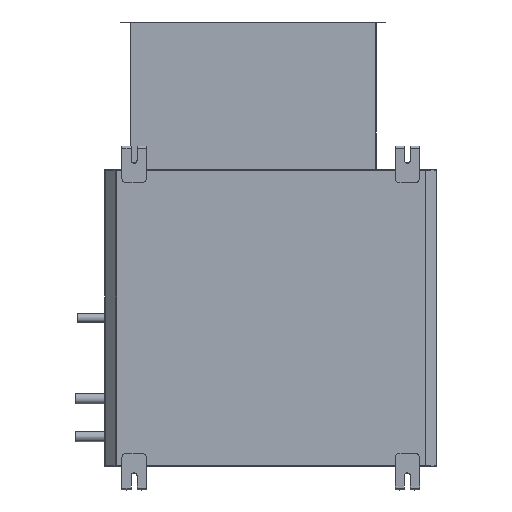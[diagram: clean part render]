
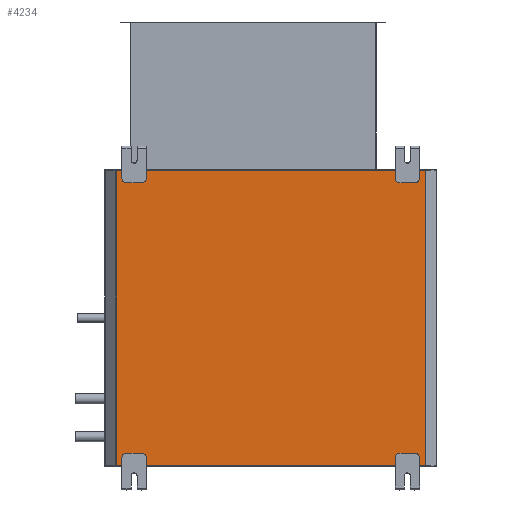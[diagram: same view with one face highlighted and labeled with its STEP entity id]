
A CAD part, left-side view. The second image highlights one B-rep face of the part: STEP entity #4234.
In plain terms, the highlighted planar face has unit normal (-1, 0, 0).
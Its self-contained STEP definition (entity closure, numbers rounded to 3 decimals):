
#176=PLANE('',#4621);
#383=FACE_OUTER_BOUND('',#628,.T.);
#628=EDGE_LOOP('',(#3877,#3878,#3879,#3880,#3881,#3882,#3883,#3884,#3885,
#3886,#3887,#3888,#3889,#3890,#3891,#3892,#3893,#3894,#3895,#3896,#3897,
#3898,#3899,#3900,#3901,#3902,#3903,#3904));
#715=LINE('',#6052,#1169);
#724=LINE('',#6072,#1178);
#728=LINE('',#6084,#1182);
#794=LINE('',#6267,#1248);
#802=LINE('',#6289,#1256);
#806=LINE('',#6298,#1260);
#875=LINE('',#6487,#1329);
#883=LINE('',#6509,#1337);
#887=LINE('',#6518,#1341);
#957=LINE('',#6708,#1411);
#966=LINE('',#6730,#1420);
#970=LINE('',#6742,#1424);
#1071=LINE('',#7008,#1525);
#1072=LINE('',#7009,#1526);
#1073=LINE('',#7011,#1527);
#1079=LINE('',#7022,#1533);
#1080=LINE('',#7023,#1534);
#1081=LINE('',#7024,#1535);
#1082=LINE('',#7026,#1536);
#1083=LINE('',#7027,#1537);
#1169=VECTOR('',#4855,10.);
#1178=VECTOR('',#4874,10.);
#1182=VECTOR('',#4890,10.);
#1248=VECTOR('',#5058,10.);
#1256=VECTOR('',#5082,10.);
#1260=VECTOR('',#5094,10.);
#1329=VECTOR('',#5269,10.);
#1337=VECTOR('',#5293,10.);
#1341=VECTOR('',#5305,10.);
#1411=VECTOR('',#5483,10.);
#1420=VECTOR('',#5504,10.);
#1424=VECTOR('',#5520,10.);
#1525=VECTOR('',#5779,10.);
#1526=VECTOR('',#5780,10.);
#1527=VECTOR('',#5781,10.);
#1533=VECTOR('',#5789,10.);
#1534=VECTOR('',#5790,10.);
#1535=VECTOR('',#5791,10.);
#1536=VECTOR('',#5792,10.);
#1537=VECTOR('',#5793,10.);
#1588=CIRCLE('',#4344,10.);
#1589=CIRCLE('',#4346,10.);
#1617=CIRCLE('',#4405,10.);
#1618=CIRCLE('',#4408,10.);
#1647=CIRCLE('',#4470,10.);
#1648=CIRCLE('',#4473,10.);
#1678=CIRCLE('',#4538,10.);
#1679=CIRCLE('',#4540,10.);
#1788=VERTEX_POINT('',#6049);
#1789=VERTEX_POINT('',#6051);
#1794=VERTEX_POINT('',#6069);
#1795=VERTEX_POINT('',#6071);
#1796=VERTEX_POINT('',#6076);
#1797=VERTEX_POINT('',#6080);
#1849=VERTEX_POINT('',#6226);
#1850=VERTEX_POINT('',#6228);
#1863=VERTEX_POINT('',#6266);
#1868=VERTEX_POINT('',#6284);
#1869=VERTEX_POINT('',#6288);
#1870=VERTEX_POINT('',#6292);
#1923=VERTEX_POINT('',#6446);
#1924=VERTEX_POINT('',#6448);
#1937=VERTEX_POINT('',#6486);
#1942=VERTEX_POINT('',#6504);
#1943=VERTEX_POINT('',#6508);
#1944=VERTEX_POINT('',#6512);
#2009=VERTEX_POINT('',#6705);
#2010=VERTEX_POINT('',#6707);
#2016=VERTEX_POINT('',#6727);
#2017=VERTEX_POINT('',#6729);
#2018=VERTEX_POINT('',#6734);
#2019=VERTEX_POINT('',#6738);
#2105=VERTEX_POINT('',#7006);
#2106=VERTEX_POINT('',#7010);
#2110=VERTEX_POINT('',#7021);
#2111=VERTEX_POINT('',#7025);
#2228=EDGE_CURVE('',#1789,#1788,#715,.T.);
#2239=EDGE_CURVE('',#1795,#1794,#724,.T.);
#2243=EDGE_CURVE('',#1796,#1788,#1588,.F.);
#2244=EDGE_CURVE('',#1795,#1797,#1589,.F.);
#2246=EDGE_CURVE('',#1796,#1797,#728,.T.);
#2336=EDGE_CURVE('',#1863,#1850,#794,.T.);
#2346=EDGE_CURVE('',#1863,#1868,#1617,.F.);
#2348=EDGE_CURVE('',#1869,#1868,#802,.T.);
#2350=EDGE_CURVE('',#1869,#1870,#1618,.F.);
#2354=EDGE_CURVE('',#1849,#1870,#806,.T.);
#2447=EDGE_CURVE('',#1937,#1924,#875,.T.);
#2457=EDGE_CURVE('',#1937,#1942,#1647,.F.);
#2459=EDGE_CURVE('',#1943,#1942,#883,.T.);
#2461=EDGE_CURVE('',#1943,#1944,#1648,.F.);
#2465=EDGE_CURVE('',#1923,#1944,#887,.T.);
#2559=EDGE_CURVE('',#2010,#2009,#957,.T.);
#2571=EDGE_CURVE('',#2017,#2016,#966,.T.);
#2575=EDGE_CURVE('',#2018,#2009,#1678,.F.);
#2576=EDGE_CURVE('',#2017,#2019,#1679,.F.);
#2578=EDGE_CURVE('',#2018,#2019,#970,.T.);
#2707=EDGE_CURVE('',#2105,#1794,#1071,.T.);
#2708=EDGE_CURVE('',#1789,#1850,#1072,.T.);
#2709=EDGE_CURVE('',#1849,#2106,#1073,.T.);
#2715=EDGE_CURVE('',#2110,#2105,#1079,.T.);
#2716=EDGE_CURVE('',#1923,#2110,#1080,.T.);
#2717=EDGE_CURVE('',#2010,#1924,#1081,.T.);
#2718=EDGE_CURVE('',#2111,#2016,#1082,.T.);
#2719=EDGE_CURVE('',#2106,#2111,#1083,.T.);
#3877=ORIENTED_EDGE('',*,*,#2239,.T.);
#3878=ORIENTED_EDGE('',*,*,#2707,.F.);
#3879=ORIENTED_EDGE('',*,*,#2715,.F.);
#3880=ORIENTED_EDGE('',*,*,#2716,.F.);
#3881=ORIENTED_EDGE('',*,*,#2465,.T.);
#3882=ORIENTED_EDGE('',*,*,#2461,.F.);
#3883=ORIENTED_EDGE('',*,*,#2459,.T.);
#3884=ORIENTED_EDGE('',*,*,#2457,.F.);
#3885=ORIENTED_EDGE('',*,*,#2447,.T.);
#3886=ORIENTED_EDGE('',*,*,#2717,.F.);
#3887=ORIENTED_EDGE('',*,*,#2559,.T.);
#3888=ORIENTED_EDGE('',*,*,#2575,.F.);
#3889=ORIENTED_EDGE('',*,*,#2578,.T.);
#3890=ORIENTED_EDGE('',*,*,#2576,.F.);
#3891=ORIENTED_EDGE('',*,*,#2571,.T.);
#3892=ORIENTED_EDGE('',*,*,#2718,.F.);
#3893=ORIENTED_EDGE('',*,*,#2719,.F.);
#3894=ORIENTED_EDGE('',*,*,#2709,.F.);
#3895=ORIENTED_EDGE('',*,*,#2354,.T.);
#3896=ORIENTED_EDGE('',*,*,#2350,.F.);
#3897=ORIENTED_EDGE('',*,*,#2348,.T.);
#3898=ORIENTED_EDGE('',*,*,#2346,.F.);
#3899=ORIENTED_EDGE('',*,*,#2336,.T.);
#3900=ORIENTED_EDGE('',*,*,#2708,.F.);
#3901=ORIENTED_EDGE('',*,*,#2228,.T.);
#3902=ORIENTED_EDGE('',*,*,#2243,.F.);
#3903=ORIENTED_EDGE('',*,*,#2246,.T.);
#3904=ORIENTED_EDGE('',*,*,#2244,.F.);
#4234=ADVANCED_FACE('',(#383),#176,.T.);
#4344=AXIS2_PLACEMENT_3D('',#6078,#4881,#4882);
#4346=AXIS2_PLACEMENT_3D('',#6081,#4885,#4886);
#4405=AXIS2_PLACEMENT_3D('',#6285,#5077,#5078);
#4408=AXIS2_PLACEMENT_3D('',#6293,#5086,#5087);
#4470=AXIS2_PLACEMENT_3D('',#6505,#5288,#5289);
#4473=AXIS2_PLACEMENT_3D('',#6513,#5297,#5298);
#4538=AXIS2_PLACEMENT_3D('',#6736,#5511,#5512);
#4540=AXIS2_PLACEMENT_3D('',#6739,#5515,#5516);
#4621=AXIS2_PLACEMENT_3D('',#7020,#5787,#5788);
#4855=DIRECTION('',(0.,0.,1.));
#4874=DIRECTION('',(0.,0.,-1.));
#4881=DIRECTION('center_axis',(1.,0.,0.));
#4882=DIRECTION('ref_axis',(0.,0.707,0.707));
#4885=DIRECTION('center_axis',(1.,0.,0.));
#4886=DIRECTION('ref_axis',(0.,-0.707,0.707));
#4890=DIRECTION('',(0.,-1.,0.));
#5058=DIRECTION('',(0.,0.,-1.));
#5077=DIRECTION('center_axis',(1.,0.,0.));
#5078=DIRECTION('ref_axis',(0.,-0.707,0.707));
#5082=DIRECTION('',(0.,-1.,0.));
#5086=DIRECTION('center_axis',(1.,0.,0.));
#5087=DIRECTION('ref_axis',(0.,0.707,0.707));
#5094=DIRECTION('',(0.,0.,1.));
#5269=DIRECTION('',(0.,0.,1.));
#5288=DIRECTION('center_axis',(1.,0.,0.));
#5289=DIRECTION('ref_axis',(0.,0.707,-0.707));
#5293=DIRECTION('',(0.,1.,0.));
#5297=DIRECTION('center_axis',(1.,0.,0.));
#5298=DIRECTION('ref_axis',(0.,-0.707,-0.707));
#5305=DIRECTION('',(0.,0.,-1.));
#5483=DIRECTION('',(0.,0.,-1.));
#5504=DIRECTION('',(0.,0.,1.));
#5511=DIRECTION('center_axis',(1.,0.,0.));
#5512=DIRECTION('ref_axis',(0.,-0.707,-0.707));
#5515=DIRECTION('center_axis',(1.,0.,0.));
#5516=DIRECTION('ref_axis',(0.,0.707,-0.707));
#5520=DIRECTION('',(0.,1.,0.));
#5779=DIRECTION('',(0.,1.,0.));
#5780=DIRECTION('',(0.,1.,0.));
#5781=DIRECTION('',(0.,1.,0.));
#5787=DIRECTION('center_axis',(-1.,0.,0.));
#5788=DIRECTION('ref_axis',(0.,-1.,0.));
#5789=DIRECTION('',(0.,0.,-1.));
#5790=DIRECTION('',(0.,-1.,0.));
#5791=DIRECTION('',(0.,-1.,0.));
#5792=DIRECTION('',(0.,-1.,0.));
#5793=DIRECTION('',(0.,0.,1.));
#6049=CARTESIAN_POINT('',(-269.5,-253.5,-285.5));
#6051=CARTESIAN_POINT('',(-269.5,-253.5,-302.5));
#6052=CARTESIAN_POINT('',(-269.5,-253.5,-160.39));
#6069=CARTESIAN_POINT('',(-269.5,-303.5,-302.5));
#6071=CARTESIAN_POINT('',(-269.5,-303.5,-285.5));
#6072=CARTESIAN_POINT('',(-269.5,-303.5,-160.39));
#6076=CARTESIAN_POINT('',(-269.5,-263.5,-275.5));
#6078=CARTESIAN_POINT('Origin',(-269.5,-263.5,-285.5));
#6080=CARTESIAN_POINT('',(-269.5,-293.5,-275.5));
#6081=CARTESIAN_POINT('Origin',(-269.5,-293.5,-285.5));
#6084=CARTESIAN_POINT('',(-269.5,6.,-275.5));
#6226=CARTESIAN_POINT('',(-269.5,303.5,-302.5));
#6228=CARTESIAN_POINT('',(-269.5,253.5,-302.5));
#6266=CARTESIAN_POINT('',(-269.5,253.5,-285.5));
#6267=CARTESIAN_POINT('',(-269.5,253.5,-160.39));
#6284=CARTESIAN_POINT('',(-269.5,263.5,-275.5));
#6285=CARTESIAN_POINT('Origin',(-269.5,263.5,-285.5));
#6288=CARTESIAN_POINT('',(-269.5,293.5,-275.5));
#6289=CARTESIAN_POINT('',(-269.5,309.5,-275.5));
#6292=CARTESIAN_POINT('',(-269.5,303.5,-285.5));
#6293=CARTESIAN_POINT('Origin',(-269.5,293.5,-285.5));
#6298=CARTESIAN_POINT('',(-269.5,303.5,-160.39));
#6446=CARTESIAN_POINT('',(-269.5,-303.5,302.5));
#6448=CARTESIAN_POINT('',(-269.5,-253.5,302.5));
#6486=CARTESIAN_POINT('',(-269.5,-253.5,285.5));
#6487=CARTESIAN_POINT('',(-269.5,-253.5,160.39));
#6504=CARTESIAN_POINT('',(-269.5,-263.5,275.5));
#6505=CARTESIAN_POINT('Origin',(-269.5,-263.5,285.5));
#6508=CARTESIAN_POINT('',(-269.5,-293.5,275.5));
#6509=CARTESIAN_POINT('',(-269.5,6.,275.5));
#6512=CARTESIAN_POINT('',(-269.5,-303.5,285.5));
#6513=CARTESIAN_POINT('Origin',(-269.5,-293.5,285.5));
#6518=CARTESIAN_POINT('',(-269.5,-303.5,160.39));
#6705=CARTESIAN_POINT('',(-269.5,253.5,285.5));
#6707=CARTESIAN_POINT('',(-269.5,253.5,302.5));
#6708=CARTESIAN_POINT('',(-269.5,253.5,160.39));
#6727=CARTESIAN_POINT('',(-269.5,303.5,302.5));
#6729=CARTESIAN_POINT('',(-269.5,303.5,285.5));
#6730=CARTESIAN_POINT('',(-269.5,303.5,160.39));
#6734=CARTESIAN_POINT('',(-269.5,263.5,275.5));
#6736=CARTESIAN_POINT('Origin',(-269.5,263.5,285.5));
#6738=CARTESIAN_POINT('',(-269.5,293.5,275.5));
#6739=CARTESIAN_POINT('Origin',(-269.5,293.5,285.5));
#6742=CARTESIAN_POINT('',(-269.5,309.5,275.5));
#7006=CARTESIAN_POINT('',(-269.5,-315.5,-302.5));
#7008=CARTESIAN_POINT('',(-269.5,315.5,-302.5));
#7009=CARTESIAN_POINT('',(-269.5,315.5,-302.5));
#7010=CARTESIAN_POINT('',(-269.5,315.5,-302.5));
#7011=CARTESIAN_POINT('',(-269.5,315.5,-302.5));
#7020=CARTESIAN_POINT('Origin',(-269.5,315.5,0.));
#7021=CARTESIAN_POINT('',(-269.5,-315.5,302.5));
#7022=CARTESIAN_POINT('',(-269.5,-315.5,0.));
#7023=CARTESIAN_POINT('',(-269.5,315.5,302.5));
#7024=CARTESIAN_POINT('',(-269.5,315.5,302.5));
#7025=CARTESIAN_POINT('',(-269.5,315.5,302.5));
#7026=CARTESIAN_POINT('',(-269.5,315.5,302.5));
#7027=CARTESIAN_POINT('',(-269.5,315.5,0.));
